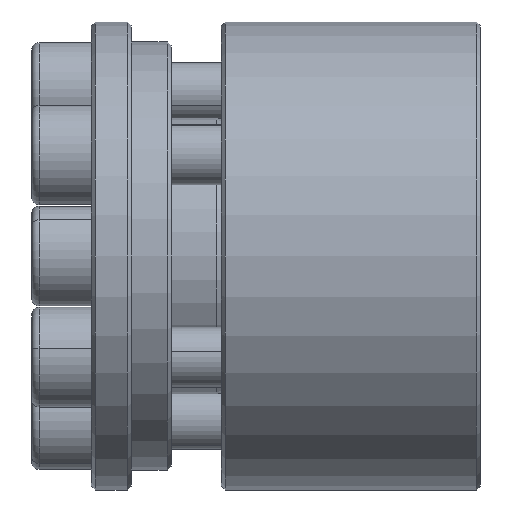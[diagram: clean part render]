
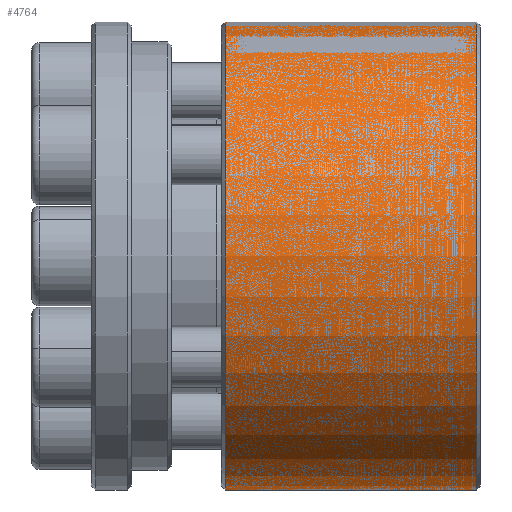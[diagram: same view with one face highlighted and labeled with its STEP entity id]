
A CAD part, front view. The second image highlights one B-rep face of the part: STEP entity #4764.
In plain terms, the highlighted cylindrical face has radius 23.46 mm (diameter 46.92 mm), a partial arc.
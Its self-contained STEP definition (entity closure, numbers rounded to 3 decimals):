
#78 = CARTESIAN_POINT ( 'NONE',  ( 25.6, 0., 23.46 ) ) ;
#320 = CARTESIAN_POINT ( 'NONE',  ( 0., 0., 0. ) ) ;
#395 = CIRCLE ( 'NONE', #7192, 23.46 ) ;
#647 = VERTEX_POINT ( 'NONE', #4080 ) ;
#1059 = ORIENTED_EDGE ( 'NONE', *, *, #8442, .F. ) ;
#1166 = CARTESIAN_POINT ( 'NONE',  ( 0., 0., 23.46 ) ) ;
#1516 = CARTESIAN_POINT ( 'NONE',  ( 0.4, 0., -23.46 ) ) ;
#1555 = EDGE_CURVE ( 'NONE', #1756, #647, #7953, .T. ) ;
#1673 = DIRECTION ( 'NONE',  ( 0., 0., 1. ) ) ;
#1756 = VERTEX_POINT ( 'NONE', #78 ) ;
#1927 = VERTEX_POINT ( 'NONE', #1516 ) ;
#1928 = AXIS2_PLACEMENT_3D ( 'NONE', #320, #2589, #7798 ) ;
#2572 = VECTOR ( 'NONE', #4193, 1000. ) ;
#2589 = DIRECTION ( 'NONE',  ( -1., 0., 0. ) ) ;
#2659 = LINE ( 'NONE', #3610, #3081 ) ;
#3014 = EDGE_LOOP ( 'NONE', ( #1059, #8270, #9143, #9536 ) ) ;
#3081 = VECTOR ( 'NONE', #3509, 1000. ) ;
#3157 = DIRECTION ( 'NONE',  ( 1., 0., 0. ) ) ;
#3509 = DIRECTION ( 'NONE',  ( -1., 0., 0. ) ) ;
#3610 = CARTESIAN_POINT ( 'NONE',  ( 0., 0., -23.46 ) ) ;
#3855 = EDGE_CURVE ( 'NONE', #6877, #1756, #3878, .T. ) ;
#3878 = CIRCLE ( 'NONE', #6896, 23.46 ) ;
#4080 = CARTESIAN_POINT ( 'NONE',  ( 0.4, 0., 23.46 ) ) ;
#4193 = DIRECTION ( 'NONE',  ( -1., 0., 0. ) ) ;
#4764 = ADVANCED_FACE ( 'NONE', ( #5388 ), #6168, .T. ) ;
#5388 = FACE_OUTER_BOUND ( 'NONE', #3014, .T. ) ;
#5952 = CARTESIAN_POINT ( 'NONE',  ( 25.6, 0., -23.46 ) ) ;
#6168 = CYLINDRICAL_SURFACE ( 'NONE', #1928, 23.46 ) ;
#6877 = VERTEX_POINT ( 'NONE', #5952 ) ;
#6896 = AXIS2_PLACEMENT_3D ( 'NONE', #8641, #9321, #1673 ) ;
#6940 = DIRECTION ( 'NONE',  ( 0., 0., -1. ) ) ;
#7192 = AXIS2_PLACEMENT_3D ( 'NONE', #8505, #3157, #6940 ) ;
#7798 = DIRECTION ( 'NONE',  ( 0., 0., 1. ) ) ;
#7953 = LINE ( 'NONE', #1166, #2572 ) ;
#8267 = EDGE_CURVE ( 'NONE', #647, #1927, #395, .T. ) ;
#8270 = ORIENTED_EDGE ( 'NONE', *, *, #3855, .T. ) ;
#8442 = EDGE_CURVE ( 'NONE', #6877, #1927, #2659, .T. ) ;
#8505 = CARTESIAN_POINT ( 'NONE',  ( 0.4, 0., 0. ) ) ;
#8641 = CARTESIAN_POINT ( 'NONE',  ( 25.6, 0., 0. ) ) ;
#9143 = ORIENTED_EDGE ( 'NONE', *, *, #1555, .T. ) ;
#9321 = DIRECTION ( 'NONE',  ( -1., 0., 0. ) ) ;
#9536 = ORIENTED_EDGE ( 'NONE', *, *, #8267, .T. ) ;
